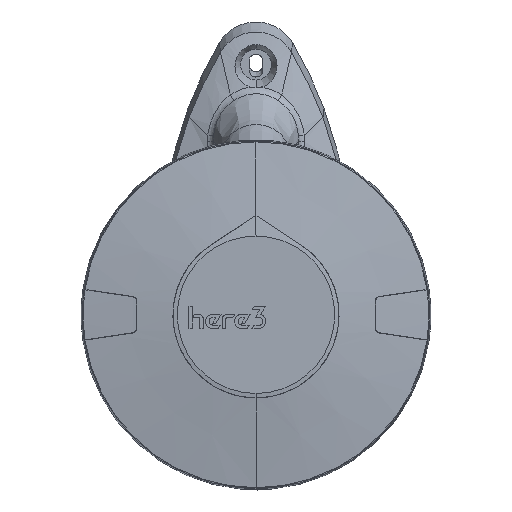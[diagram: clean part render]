
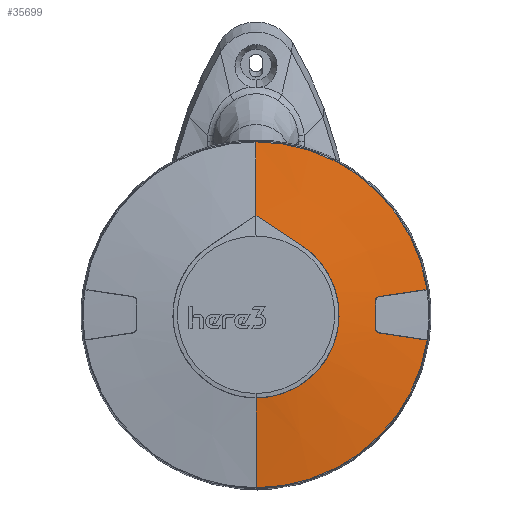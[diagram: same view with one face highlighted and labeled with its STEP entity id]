
A CAD part, top view. The second image highlights one B-rep face of the part: STEP entity #35699.
In plain terms, the highlighted conical face has half-angle 82.262 degrees and reference radius 24.779 mm.
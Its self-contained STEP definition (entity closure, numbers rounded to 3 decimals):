
#27690=CARTESIAN_POINT('',(0.,0.,4.322));
#27691=DIRECTION('',(0.,0.,-1.));
#27692=DIRECTION('',(0.989,-0.146,0.));
#27693=AXIS2_PLACEMENT_3D('',#27690,#27691,#27692);
#27695=DIRECTION('',(0.,-0.991,
-0.135));
#27696=VECTOR('',#27695,17.542);
#27697=CARTESIAN_POINT('',(0.,-16.102,6.684));
#27698=LINE('',#27697,#27696);
#27699=CARTESIAN_POINT('',(0.,-16.102,6.684));
#27700=CARTESIAN_POINT('',(1.155,-16.102,
6.684));
#27701=CARTESIAN_POINT('',(3.461,-15.856,
6.684));
#27702=CARTESIAN_POINT('',(6.747,-14.757,
6.684));
#27703=CARTESIAN_POINT('',(9.711,-12.991,
6.685));
#27704=CARTESIAN_POINT('',(12.239,-10.638,
6.685));
#27705=CARTESIAN_POINT('',(14.217,-7.803,
6.685));
#27706=CARTESIAN_POINT('',(15.547,-4.609,
6.685));
#27707=CARTESIAN_POINT('',(16.16,-1.218,
6.687));
#27708=CARTESIAN_POINT('',(16.052,2.225,6.687));
#27709=CARTESIAN_POINT('',(15.218,5.573,6.687));
#27710=CARTESIAN_POINT('',(13.687,8.669,6.687));
#27711=CARTESIAN_POINT('',(11.539,11.364,6.688));
#27712=CARTESIAN_POINT('',(9.768,12.817,6.688));
#27713=CARTESIAN_POINT('',(8.817,13.442,6.688));
#27715=CARTESIAN_POINT('',(8.817,13.442,6.688));
#27716=CARTESIAN_POINT('',(8.073,13.93,6.688));
#27717=CARTESIAN_POINT('',(6.586,14.907,6.667));
#27718=CARTESIAN_POINT('',(4.348,16.377,6.578));
#27719=CARTESIAN_POINT('',(2.134,17.832,6.439));
#27720=CARTESIAN_POINT('',(0.705,18.771,
6.322));
#27721=CARTESIAN_POINT('',(-0.002,19.236,
6.258));
#27723=DIRECTION('',(0.,0.991,-0.135));
#27724=VECTOR('',#27723,14.38);
#27725=CARTESIAN_POINT('',(-0.002,19.236,
6.258));
#27726=LINE('',#27725,#27724);
#27727=CARTESIAN_POINT('',(0.,0.,4.322));
#27728=DIRECTION('',(0.,0.,-1.));
#27729=DIRECTION('',(0.,1.,0.));
#27730=AXIS2_PLACEMENT_3D('',#27727,#27728,#27729);
#27732=DIRECTION('',(0.98,0.144,-0.135));
#27733=VECTOR('',#27732,9.441);
#27734=CARTESIAN_POINT('',(23.868,3.538,5.594));
#27735=LINE('',#27734,#27733);
#27736=CARTESIAN_POINT('',(23.127,2.682,5.709));
#27737=CARTESIAN_POINT('',(23.127,2.788,5.707));
#27738=CARTESIAN_POINT('',(23.163,2.986,5.699));
#27739=CARTESIAN_POINT('',(23.326,3.263,5.672));
#27740=CARTESIAN_POINT('',(23.571,3.457,5.635));
#27741=CARTESIAN_POINT('',(23.763,3.522,5.608));
#27742=CARTESIAN_POINT('',(23.868,3.538,5.594));
#27744=CARTESIAN_POINT('',(23.127,-2.682,
5.709));
#27745=CARTESIAN_POINT('',(23.126,-2.084,
5.718));
#27746=CARTESIAN_POINT('',(23.125,-0.897,
5.731));
#27747=CARTESIAN_POINT('',(23.125,0.898,
5.731));
#27748=CARTESIAN_POINT('',(23.126,2.085,5.718));
#27749=CARTESIAN_POINT('',(23.127,2.682,5.709));
#27751=CARTESIAN_POINT('',(23.868,-3.538,
5.594));
#27752=CARTESIAN_POINT('',(23.761,-3.522,
5.608));
#27753=CARTESIAN_POINT('',(23.567,-3.456,
5.636));
#27754=CARTESIAN_POINT('',(23.317,-3.254,
5.673));
#27755=CARTESIAN_POINT('',(23.163,-2.984,
5.699));
#27756=CARTESIAN_POINT('',(23.127,-2.788,
5.707));
#27757=CARTESIAN_POINT('',(23.127,-2.682,
5.709));
#27759=DIRECTION('',(-0.98,0.144,0.135));
#27760=VECTOR('',#27759,9.441);
#27761=CARTESIAN_POINT('',(33.124,-4.899,
4.322));
#27762=LINE('',#27761,#27760);
#32638=CARTESIAN_POINT('',(23.868,3.538,5.594));
#32640=VERTEX_POINT('',#32638);
#32642=CARTESIAN_POINT('',(23.127,2.682,5.709));
#32644=VERTEX_POINT('',#32642);
#32646=CARTESIAN_POINT('',(23.127,-2.682,
5.709));
#32648=VERTEX_POINT('',#32646);
#32650=CARTESIAN_POINT('',(23.868,-3.538,
5.594));
#32652=VERTEX_POINT('',#32650);
#33379=VERTEX_POINT('',#27715);
#33380=VERTEX_POINT('',#27721);
#33383=VERTEX_POINT('',#27699);
#33419=CARTESIAN_POINT('',(0.,-33.484,4.322));
#33421=VERTEX_POINT('',#33419);
#33423=CARTESIAN_POINT('',(33.124,-4.899,
4.322));
#33424=VERTEX_POINT('',#33423);
#33425=CARTESIAN_POINT('',(0.,33.484,4.322));
#33426=CARTESIAN_POINT('',(33.124,4.899,4.322));
#33427=VERTEX_POINT('',#33425);
#33428=VERTEX_POINT('',#33426);
#35671=CARTESIAN_POINT('',(0.,0.,5.505));
#35672=DIRECTION('',(0.,0.,-1.));
#35673=DIRECTION('',(1.,0.,0.));
#35674=AXIS2_PLACEMENT_3D('',#35671,#35672,#35673);
#35675=CONICAL_SURFACE('',#35674,24.779,82.262);
#35677=ORIENTED_EDGE('',*,*,#35676,.T.);
#35679=ORIENTED_EDGE('',*,*,#35678,.F.);
#35680=ORIENTED_EDGE('',*,*,#35657,.T.);
#35682=ORIENTED_EDGE('',*,*,#35681,.T.);
#35684=ORIENTED_EDGE('',*,*,#35683,.T.);
#35686=ORIENTED_EDGE('',*,*,#35685,.T.);
#35688=ORIENTED_EDGE('',*,*,#35687,.F.);
#35690=ORIENTED_EDGE('',*,*,#35689,.F.);
#35692=ORIENTED_EDGE('',*,*,#35691,.F.);
#35694=ORIENTED_EDGE('',*,*,#35693,.F.);
#35696=ORIENTED_EDGE('',*,*,#35695,.F.);
#35697=EDGE_LOOP('',(#35677,#35679,#35680,#35682,#35684,#35686,#35688,#35690,
#35692,#35694,#35696));
#35698=FACE_OUTER_BOUND('',#35697,.F.);
#35699=ADVANCED_FACE('',(#35698),#35675,.T.);
#27694=CIRCLE('',#27693,33.484);
#27714=B_SPLINE_CURVE_WITH_KNOTS('',3,(#27699,#27700,#27701,#27702,#27703,
#27704,#27705,#27706,#27707,#27708,#27709,#27710,#27711,#27712,#27713),
.UNSPECIFIED.,.F.,.F.,(4,1,1,1,1,1,1,1,1,1,1,1,4),(0.,0.083,
0.167,0.25,0.333,0.417,0.5,
0.583,0.667,0.75,0.833,0.917,
1.),.UNSPECIFIED.);
#27722=B_SPLINE_CURVE_WITH_KNOTS('',3,(#27715,#27716,#27717,#27718,#27719,
#27720,#27721),.UNSPECIFIED.,.F.,.F.,(4,1,1,1,4),(0.,0.25,0.5,0.75,
1.),.UNSPECIFIED.);
#27731=CIRCLE('',#27730,33.484);
#27743=B_SPLINE_CURVE_WITH_KNOTS('',3,(#27736,#27737,#27738,#27739,#27740,
#27741,#27742),.UNSPECIFIED.,.F.,.F.,(4,1,1,1,4),(0.,0.25,0.5,0.75,
1.),.UNSPECIFIED.);
#27750=B_SPLINE_CURVE_WITH_KNOTS('',3,(#27744,#27745,#27746,#27747,#27748,
#27749),.UNSPECIFIED.,.F.,.F.,(4,1,1,4),(0.,0.333,
0.667,1.),.UNSPECIFIED.);
#27758=B_SPLINE_CURVE_WITH_KNOTS('',3,(#27751,#27752,#27753,#27754,#27755,
#27756,#27757),.UNSPECIFIED.,.F.,.F.,(4,1,1,1,4),(0.,0.25,0.5,0.75,
1.),.UNSPECIFIED.);
#35657=EDGE_CURVE('',#33383,#33379,#27714,.T.);
#35676=EDGE_CURVE('',#33424,#33421,#27694,.T.);
#35678=EDGE_CURVE('',#33383,#33421,#27698,.T.);
#35681=EDGE_CURVE('',#33379,#33380,#27722,.T.);
#35683=EDGE_CURVE('',#33380,#33427,#27726,.T.);
#35685=EDGE_CURVE('',#33427,#33428,#27731,.T.);
#35687=EDGE_CURVE('',#32640,#33428,#27735,.T.);
#35689=EDGE_CURVE('',#32644,#32640,#27743,.T.);
#35691=EDGE_CURVE('',#32648,#32644,#27750,.T.);
#35693=EDGE_CURVE('',#32652,#32648,#27758,.T.);
#35695=EDGE_CURVE('',#33424,#32652,#27762,.T.);
